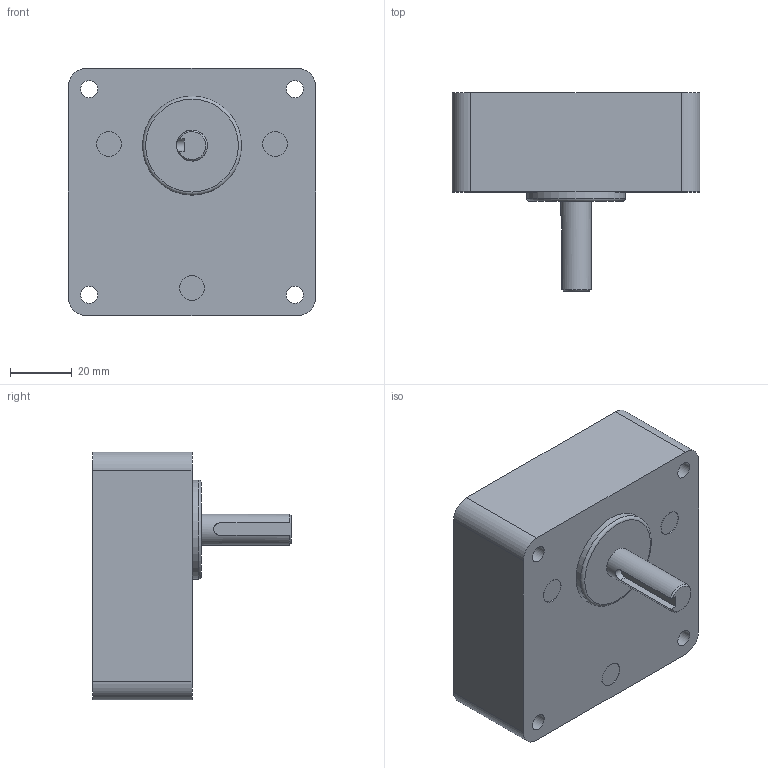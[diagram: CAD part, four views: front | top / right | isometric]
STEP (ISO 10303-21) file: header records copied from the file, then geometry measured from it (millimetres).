
FILE_DESCRIPTION((''),'2;1');
FILE_NAME('\\Servert1600\threepeace\2015homepage\STP\HP-Data_Gearhead_3D_STEP\DB-2.stp','2016-11-18T10:35:22',('Administrator'),(''),'Autodesk Inventor 2010','Autodesk Inventor 2010','');
FILE_SCHEMA(('AUTOMOTIVE_DESIGN { 1 0 10303 214 1 1 1 1 }'));
Length unit declared in the file: millimetre
Products named in the file (1): DB-2-ギアヘッド単品
Bounding box: 80 x 64 x 80 mm (x, y, z)
Volume: 192618.3 mm3; surface area: 26631 mm2
Topology: 1 solids, 1 shells, 32 faces, 72 edges, 48 vertices
Faces by surface type: plane 15, cylinder 11, bspline 4, cone 1, torus 1
Full cylindrical faces by diameter (mm): 8 x3, 10 x1, 32 x1, 73 x1
Entity records: 949 total; most frequent: CARTESIAN_POINT 230, DIRECTION 145, ORIENTED_EDGE 120, AXIS2_PLACEMENT_3D 60, EDGE_CURVE 60, EDGE_LOOP 57, VERTEX_POINT 47, FACE_OUTER_BOUND 32
